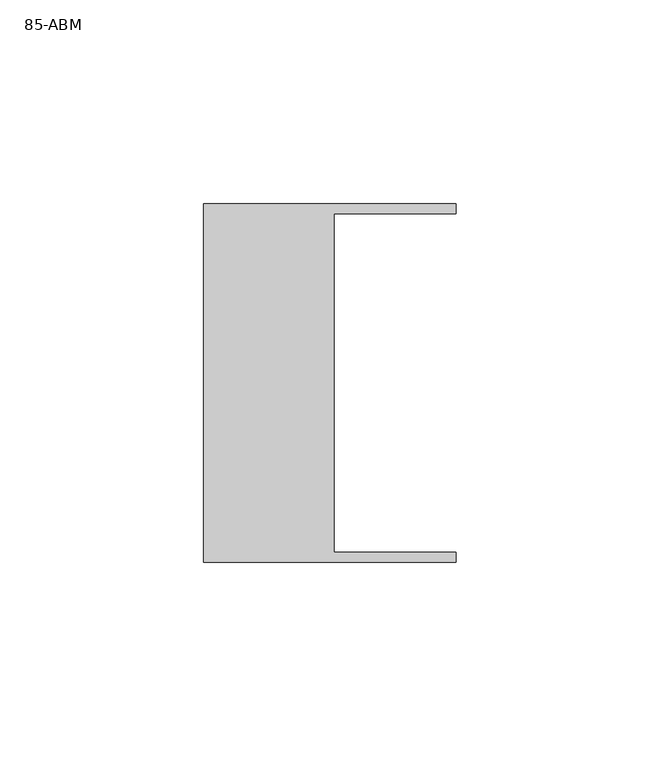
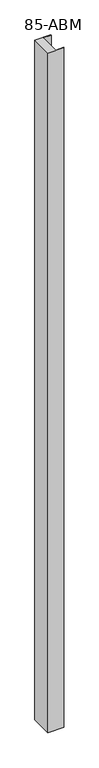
"""IFC4 building model written with IfcOpenShell, lengths in millimetres: plate geometry, PERIPH-ABM_U-MUR-M : 85-ABM."""

from ifc_helpers import new_model, si_unit, origin, origin_with_axes, place, context, project, spatial, polyline, outline, extrude, source, transform, mapped, element, save


def plate_85_abm_140e1177(model_context):
    return source(origin(), model_context, "Body", "SweptSolid", [
        extrude(outline(polyline([(46.0, -44.0), (-16.0, -44.0), (-16.0, 44.0), (46.0, 44.0), (46.0, 41.5), (16.0, 41.5), (16.0, -41.5), (46.0, -41.5), (46.0, -44.0)])), origin_with_axes(), (0.0, 0.0, 1.0), 2800.0),
    ])


if __name__ == "__main__":
    model = new_model("IFC4")
    model_context = context("Model", 3, world=origin())
    ifc_project = project(units=[si_unit("LENGTHUNIT", "METRE", prefix="MILLI")], contexts=[model_context])
    site = spatial("IfcSite", under=ifc_project)
    building = spatial("IfcBuilding", under=site)
    placement = place(None, origin())
    plate_85_abm_shape = plate_85_abm_140e1177(model_context)
    element("IfcPlate", 1, ObjectType="PERIPH-ABM_U-MUR-M : 85-ABM", at=placement, inside=building, context=model_context, shape_type="MappedRepresentation", body=[
        mapped(plate_85_abm_shape, transform((0.0, 0.0, 0.0), x_axis=(1.0, 0.0, 0.0), y_axis=(0.0, 1.0, 0.0), z_axis=(0.0, 0.0, 1.0))),
    ])
    save(model, "model.ifc")
